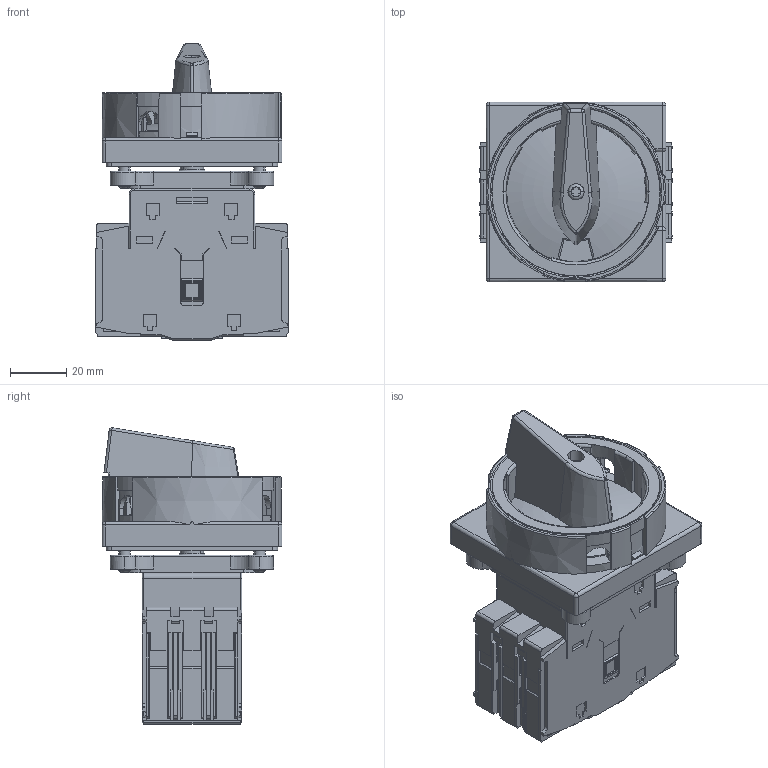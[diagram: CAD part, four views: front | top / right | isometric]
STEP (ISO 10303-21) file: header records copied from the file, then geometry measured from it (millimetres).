
FILE_DESCRIPTION (( 'STEP AP203' ), '1' );
FILE_NAME ('NF2-40PM.STEP', '2024-03-01T04:51:46', ( 'wzjh' ), ( '' ), 'SwSTEP 2.0', 'SolidWorks 2023', '' );
FILE_SCHEMA (( 'CONFIG_CONTROL_DESIGN' ));
Products named in the file (1): NF2-40PM
Bounding box: 68.5 x 64 x 105.43 mm (x, y, z)
Volume: 198125.2 mm3; surface area: 64690.4 mm2
Topology: 1 solids, 31 shells, 1995 faces, 5454 edges, 3530 vertices
Faces by surface type: plane 1239, cylinder 422, cone 117, bspline 96, torus 95, sphere 26
Entity records: 68476 total; most frequent: CARTESIAN_POINT 18079, ORIENTED_EDGE 10886, DIRECTION 9962, EDGE_CURVE 5443, VECTOR 3758, LINE 3758, VERTEX_POINT 3530, AXIS2_PLACEMENT_3D 3102
